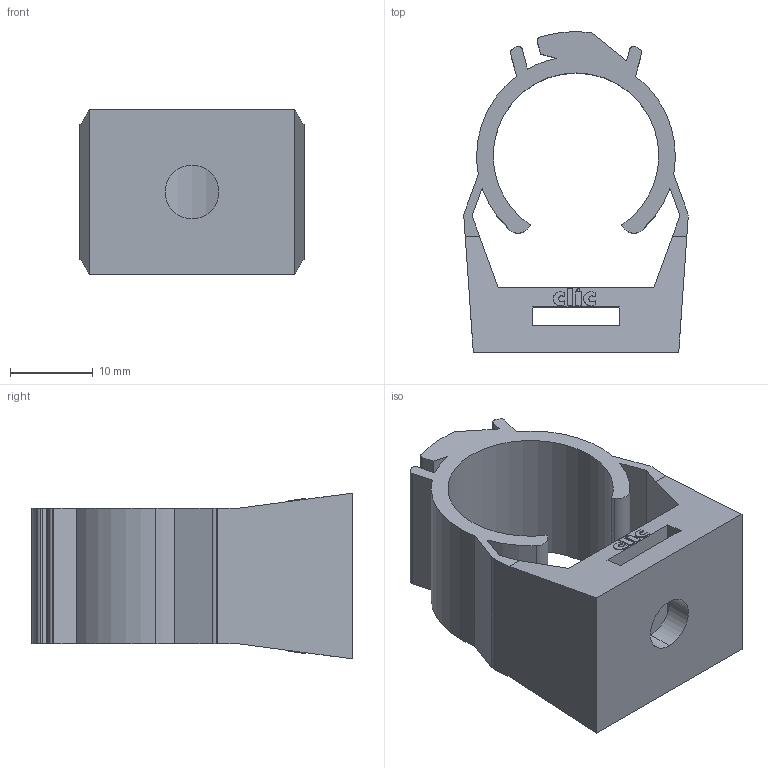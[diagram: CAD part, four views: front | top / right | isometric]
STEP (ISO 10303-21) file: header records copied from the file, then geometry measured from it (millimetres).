
FILE_DESCRIPTION (( 'STEP AP214' ), '1' );
FILE_NAME ('CLIC20.STEP', '2021-10-11T09:43:19', ( '' ), ( '' ), 'SwSTEP 2.0', 'SolidWorks 2021', '' );
FILE_SCHEMA (( 'AUTOMOTIVE_DESIGN' ));
Length unit declared in the file: millimetre
Products named in the file (1): CLIC20
Bounding box: 27.08 x 38.7 x 20 mm (x, y, z)
Volume: 6330.4 mm3; surface area: 5337.7 mm2
Topology: 1 solids, 1 shells, 118 faces, 324 edges, 216 vertices
Faces by surface type: plane 61, cylinder 29, bspline 28
Entity records: 3860 total; most frequent: CARTESIAN_POINT 1023, ORIENTED_EDGE 648, DIRECTION 508, EDGE_CURVE 324, VERTEX_POINT 216, LINE 210, VECTOR 210, AXIS2_PLACEMENT_3D 149
